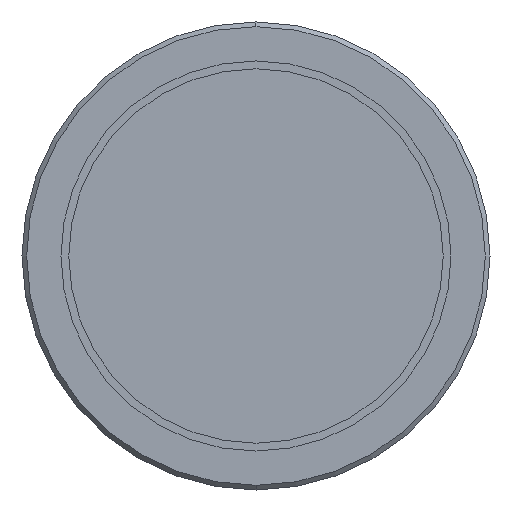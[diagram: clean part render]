
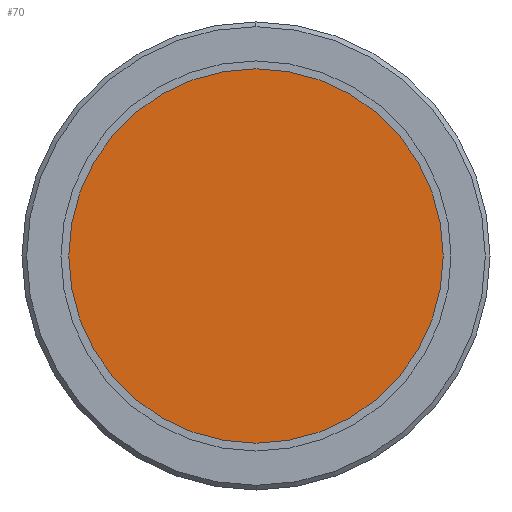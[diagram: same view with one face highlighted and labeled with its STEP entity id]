
A CAD part, left-side view. The second image highlights one B-rep face of the part: STEP entity #70.
In plain terms, the highlighted planar face has unit normal (-1, 0, 0).
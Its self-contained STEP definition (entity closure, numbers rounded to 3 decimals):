
#6 = AXIS2_PLACEMENT_3D ( 'NONE', #663, #548, #95 ) ;
#22 = CIRCLE ( 'NONE', #143, 12. ) ;
#38 = ORIENTED_EDGE ( 'NONE', *, *, #520, .T. ) ;
#48 = EDGE_LOOP ( 'NONE', ( #547, #38 ) ) ;
#70 = ADVANCED_FACE ( 'NONE', ( #156 ), #320, .T. ) ;
#95 = DIRECTION ( 'NONE',  ( 0., 0., 1. ) ) ;
#143 = AXIS2_PLACEMENT_3D ( 'NONE', #617, #400, #457 ) ;
#156 = FACE_OUTER_BOUND ( 'NONE', #48, .T. ) ;
#210 = VERTEX_POINT ( 'NONE', #278 ) ;
#229 = VERTEX_POINT ( 'NONE', #394 ) ;
#278 = CARTESIAN_POINT ( 'NONE',  ( 2.5, 0., -12. ) ) ;
#292 = CARTESIAN_POINT ( 'NONE',  ( 2.5, 0., 0. ) ) ;
#308 = EDGE_CURVE ( 'NONE', #229, #210, #22, .T. ) ;
#320 = PLANE ( 'NONE',  #6 ) ;
#394 = CARTESIAN_POINT ( 'NONE',  ( 2.5, 0., 12. ) ) ;
#400 = DIRECTION ( 'NONE',  ( -1., 0., 0. ) ) ;
#457 = DIRECTION ( 'NONE',  ( 0., 0., 1. ) ) ;
#477 = CIRCLE ( 'NONE', #613, 12. ) ;
#520 = EDGE_CURVE ( 'NONE', #210, #229, #477, .T. ) ;
#526 = DIRECTION ( 'NONE',  ( -1., 0., 0. ) ) ;
#547 = ORIENTED_EDGE ( 'NONE', *, *, #308, .T. ) ;
#548 = DIRECTION ( 'NONE',  ( -1., 0., 0. ) ) ;
#613 = AXIS2_PLACEMENT_3D ( 'NONE', #292, #526, #691 ) ;
#617 = CARTESIAN_POINT ( 'NONE',  ( 2.5, 0., 0. ) ) ;
#663 = CARTESIAN_POINT ( 'NONE',  ( 2.5, 0., 0. ) ) ;
#691 = DIRECTION ( 'NONE',  ( 0., 0., 1. ) ) ;
